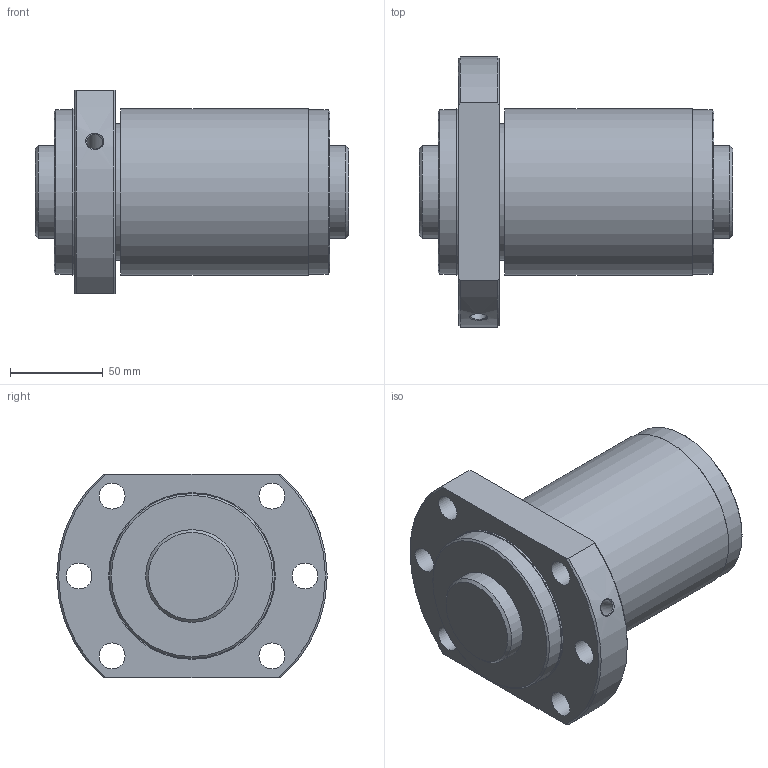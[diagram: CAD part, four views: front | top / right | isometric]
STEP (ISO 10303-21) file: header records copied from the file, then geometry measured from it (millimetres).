
FILE_DESCRIPTION(/* description */ ('STEP AP203'),/* implementation_level */ '2;1');
FILE_NAME(/* name */ 'SBK5030-7.6RRG0+169LC0(0000)',/* time_stamp */ '2024-05-28T11:20:30+02:00',/* author */ ('License CC BY-ND 4.0'),/* organization */ ('CADENAS'),/* preprocessor_version */ 'ST-DEVELOPER v19.3',/* originating_system */ 'PARTsolutions',/* authorisation */ ' ');
FILE_SCHEMA (('CONFIG_CONTROL_DESIGN'));
Length unit declared in the file: millimetre
Products named in the file (3): SBK5030-7.6RRG0+169LC0(0000); NRR000SBK5030-7.60Shaft; NRR000SBK5030-7.6Nut
Assembly tree (2 placements, depth 2):
  SBK5030-7.6RRG0+169LC0(0000)
    NRR000SBK5030-7.60Shaft
    NRR000SBK5030-7.6Nut
Bounding box: 169 x 146 x 110 mm (x, y, z)
Volume: 1130907.3 mm3; surface area: 132252.9 mm2
Topology: 2 solids, 2 shells, 37 faces, 80 edges, 52 vertices
Faces by surface type: cylinder 16, plane 11, cone 10
Full cylindrical faces by diameter (mm): 8.566 x1, 14 x6, 50 x2, 73.62 x1, 89 x2, 90 x2
Entity records: 1020 total; most frequent: CARTESIAN_POINT 183, DIRECTION 168, ORIENTED_EDGE 114, AXIS2_PLACEMENT_3D 80, FACE_BOUND 77, EDGE_LOOP 76, EDGE_CURVE 57, VERTEX_POINT 50
